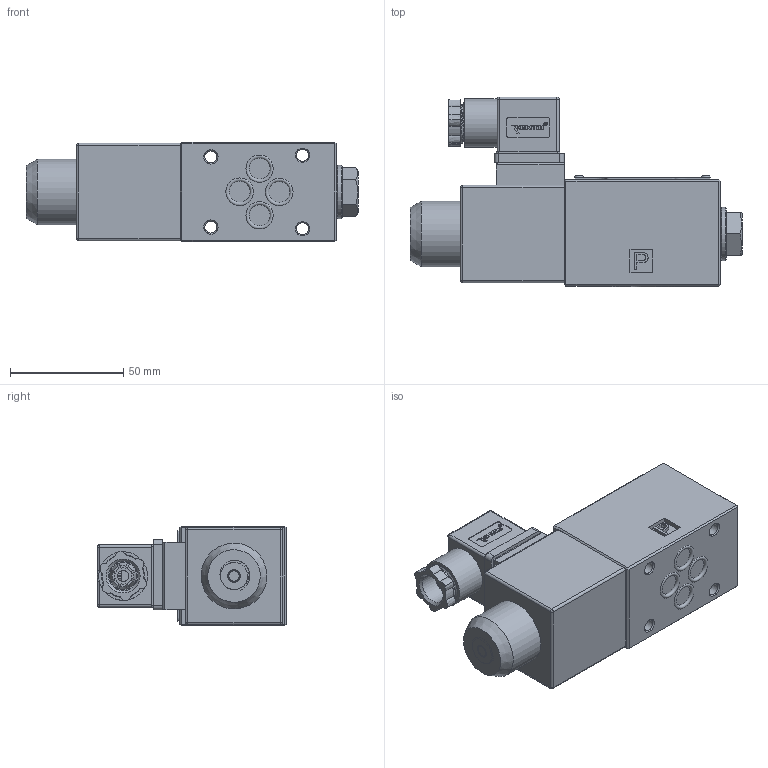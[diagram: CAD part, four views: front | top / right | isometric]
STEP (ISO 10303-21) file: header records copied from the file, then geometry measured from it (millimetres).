
FILE_DESCRIPTION(/* description */ (''),/* implementation_level */ '2;1');
FILE_NAME(/* name */ '4WE6-6XJ交流电磁阀（二位阀电磁铁在A端）.prt.stp',/* time_stamp */ '2022-03-30T19:31:52+08:00',/* author */ (''),/* organization */ (''),/* preprocessor_version */ 'ST-DEVELOPER v16.7',/* originating_system */ 'SIEMENS PLM Software NX 12.0',/* authorisation */ '');
FILE_SCHEMA (('AUTOMOTIVE_DESIGN { 1 0 10303 214 3 1 1 1 }'));
Products named in the file (1): 4WE6-6XJ交流电磁阀（二位阀电磁铁在A
端）
Bounding box: 146.7 x 83.88 x 44 mm (x, y, z)
Volume: 179826.8 mm3; surface area: 80169.4 mm2
Topology: 63 solids, 73 shells, 2400 faces, 6499 edges, 4316 vertices
Faces by surface type: plane 1876, cylinder 290, extrusion 75, cone 65, bspline 51, torus 29, sphere 14
Full cylindrical faces by diameter (mm): 0.5 x2, 1.8 x4, 2 x12, 2.125 x3, 2.2 x2, 2.5 x5, 2.8 x3, 3 x3, 4.2 x1, 4.4 x1, 4.5 x3, 5 x3, 5.3 x4, 5.32 x1, 5.5 x2, 6.2 x1, 7.2 x1, 8.7 x1, 9 x1, 9.4 x4, 11 x1, 12 x5, 12.2 x2, 13 x1, 14.3 x1, 15 x1, 16.5 x11, 18 x2, 19 x1, 20 x1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
Entity records: 109817 total; most frequent: CARTESIAN_POINT 50207, ORIENTED_EDGE 12254, DIRECTION 10823, EDGE_CURVE 6127, VECTOR 5109, LINE 5034, VERTEX_POINT 4125, AXIS2_PLACEMENT_3D 2857
